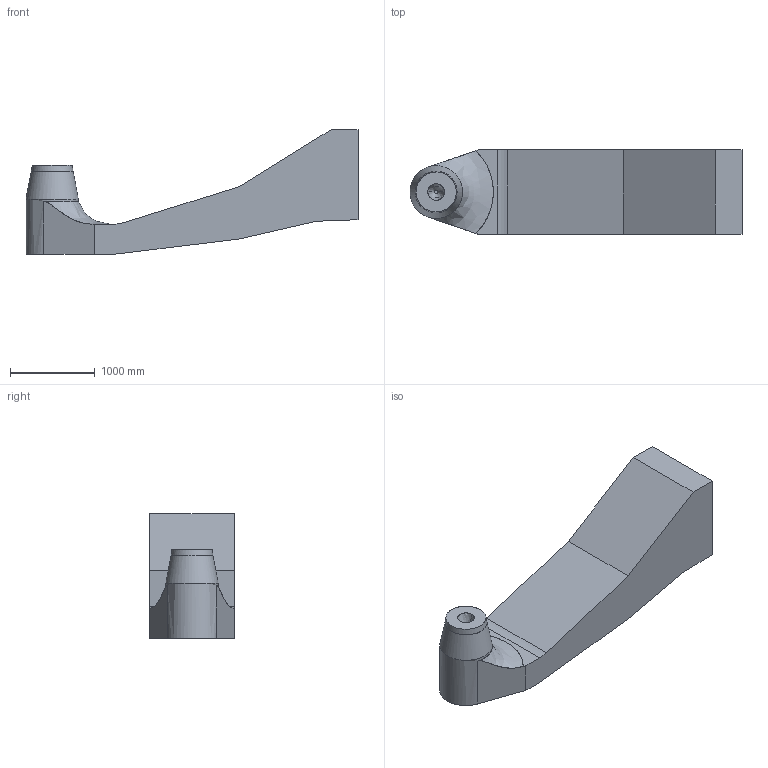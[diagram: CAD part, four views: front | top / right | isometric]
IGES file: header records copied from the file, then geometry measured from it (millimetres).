
Start section: example.igs
Global section: file name:                                              ; native system: I-DEAS Master Series 5; preprocessor: IGES 5.1; author: NONE; organization: NONE; date: 980812.134300; units: millimetre
Bounding box: 3918.01 x 1000 x 1472 mm (x, y, z)
Surface area: 14622195.9 mm2 (no closed solid volume)
Topology: 0 solids, 0 shells, 22 faces, 149 edges, 146 vertices
Faces by surface type: bspline 22
